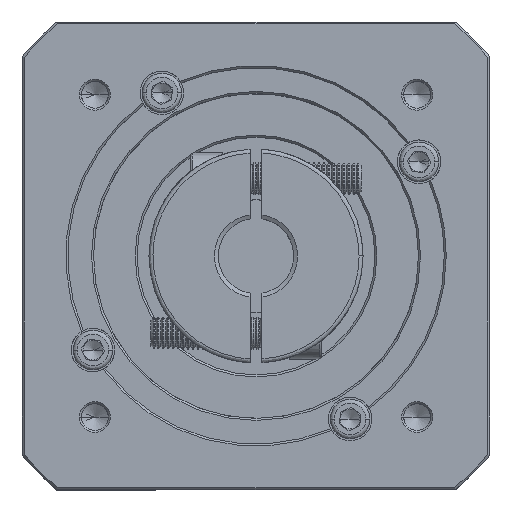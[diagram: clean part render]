
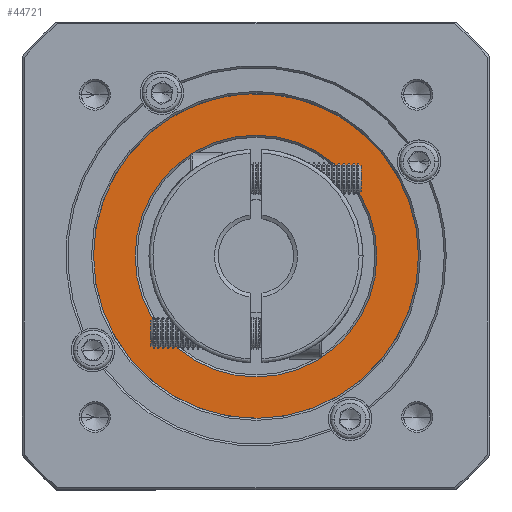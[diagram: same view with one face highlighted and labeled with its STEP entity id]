
A CAD part, top view. The second image highlights one B-rep face of the part: STEP entity #44721.
In plain terms, the highlighted planar face has unit normal (0, 0, 1).
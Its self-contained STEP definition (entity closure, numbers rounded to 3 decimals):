
#1839 = DIRECTION ( 'NONE',  ( 0., 0., 1. ) ) ;
#3198 = CARTESIAN_POINT ( 'NONE',  ( 71.236, 45.743, -26.852 ) ) ;
#4230 = DIRECTION ( 'NONE',  ( 1., 0., 0. ) ) ;
#4868 = DIRECTION ( 'NONE',  ( 0., 0., 1. ) ) ;
#7028 = ORIENTED_EDGE ( 'NONE', *, *, #118989, .T. ) ;
#11299 = CARTESIAN_POINT ( 'NONE',  ( 71.236, 45.743, -26.852 ) ) ;
#14993 = ORIENTED_EDGE ( 'NONE', *, *, #32995, .T. ) ;
#15208 = AXIS2_PLACEMENT_3D ( 'NONE', #57951, #26557, #130506 ) ;
#16820 = AXIS2_PLACEMENT_3D ( 'NONE', #75151, #96124, #4230 ) ;
#18435 = CARTESIAN_POINT ( 'NONE',  ( 110.094, 32.666, -26.852 ) ) ;
#18568 = ORIENTED_EDGE ( 'NONE', *, *, #63550, .T. ) ;
#23936 = CIRCLE ( 'NONE', #15208, 41. ) ;
#24932 = CARTESIAN_POINT ( 'NONE',  ( 112.236, 45.743, -26.852 ) ) ;
#25318 = DIRECTION ( 'NONE',  ( 1., 0., 0. ) ) ;
#26557 = DIRECTION ( 'NONE',  ( 0., 0., 1. ) ) ;
#27780 = VERTEX_POINT ( 'NONE', #122936 ) ;
#29009 = VERTEX_POINT ( 'NONE', #114930 ) ;
#30394 = VERTEX_POINT ( 'NONE', #101914 ) ;
#30676 = CIRCLE ( 'NONE', #101605, 30.5 ) ;
#30972 = VERTEX_POINT ( 'NONE', #97063 ) ;
#31591 = DIRECTION ( 'NONE',  ( 1., 0., 0. ) ) ;
#32710 = FACE_OUTER_BOUND ( 'NONE', #97288, .T. ) ;
#32995 = EDGE_CURVE ( 'NONE', #30972, #27780, #30676, .T. ) ;
#36086 = EDGE_CURVE ( 'NONE', #89377, #67526, #125937, .T. ) ;
#36490 = AXIS2_PLACEMENT_3D ( 'NONE', #90583, #100631, #99313 ) ;
#39114 = DIRECTION ( 'NONE',  ( 1., 0., 0. ) ) ;
#39814 = CIRCLE ( 'NONE', #111071, 41. ) ;
#42665 = DIRECTION ( 'NONE',  ( 0., 0., -1. ) ) ;
#43528 = ORIENTED_EDGE ( 'NONE', *, *, #46846, .T. ) ;
#43823 = ORIENTED_EDGE ( 'NONE', *, *, #36086, .T. ) ;
#44721 = ADVANCED_FACE ( 'NONE', ( #32710, #55606 ), #90350, .T. ) ;
#44957 = ORIENTED_EDGE ( 'NONE', *, *, #92230, .T. ) ;
#46846 = EDGE_CURVE ( 'NONE', #27780, #30972, #128492, .T. ) ;
#48677 = EDGE_LOOP ( 'NONE', ( #14993, #43528 ) ) ;
#50499 = DIRECTION ( 'NONE',  ( 0., 0., 1. ) ) ;
#53793 = VERTEX_POINT ( 'NONE', #116837 ) ;
#55606 = FACE_BOUND ( 'NONE', #48677, .T. ) ;
#57951 = CARTESIAN_POINT ( 'NONE',  ( 71.236, 45.743, -26.852 ) ) ;
#60376 = DIRECTION ( 'NONE',  ( 1., 0., 0. ) ) ;
#63550 = EDGE_CURVE ( 'NONE', #29009, #30394, #23936, .T. ) ;
#67526 = VERTEX_POINT ( 'NONE', #24932 ) ;
#75151 = CARTESIAN_POINT ( 'NONE',  ( 71.236, 45.743, -26.852 ) ) ;
#80309 = AXIS2_PLACEMENT_3D ( 'NONE', #90923, #50499, #39114 ) ;
#84534 = DIRECTION ( 'NONE',  ( 1., 0., 0. ) ) ;
#89377 = VERTEX_POINT ( 'NONE', #18435 ) ;
#90350 = PLANE ( 'NONE',  #90829 ) ;
#90583 = CARTESIAN_POINT ( 'NONE',  ( 71.236, 45.743, -26.852 ) ) ;
#90829 = AXIS2_PLACEMENT_3D ( 'NONE', #122076, #123841, #60376 ) ;
#90923 = CARTESIAN_POINT ( 'NONE',  ( 71.236, 45.743, -26.852 ) ) ;
#90973 = CARTESIAN_POINT ( 'NONE',  ( 39.471, 71.666, -26.852 ) ) ;
#92230 = EDGE_CURVE ( 'NONE', #130922, #53793, #101870, .T. ) ;
#93886 = DIRECTION ( 'NONE',  ( 0., 0., -1. ) ) ;
#96124 = DIRECTION ( 'NONE',  ( 0., 0., 1. ) ) ;
#97063 = CARTESIAN_POINT ( 'NONE',  ( 101.736, 45.743, -26.852 ) ) ;
#97288 = EDGE_LOOP ( 'NONE', ( #111279, #43823, #7028, #44957, #104051, #18568 ) ) ;
#99313 = DIRECTION ( 'NONE',  ( 1., 0., 0. ) ) ;
#100631 = DIRECTION ( 'NONE',  ( 0., 0., 1. ) ) ;
#101605 = AXIS2_PLACEMENT_3D ( 'NONE', #133783, #93886, #31591 ) ;
#101870 = CIRCLE ( 'NONE', #80309, 41. ) ;
#101914 = CARTESIAN_POINT ( 'NONE',  ( 103.001, 19.821, -26.852 ) ) ;
#102461 = CIRCLE ( 'NONE', #16820, 41. ) ;
#104051 = ORIENTED_EDGE ( 'NONE', *, *, #104573, .T. ) ;
#104143 = EDGE_CURVE ( 'NONE', #30394, #89377, #115533, .T. ) ;
#104573 = EDGE_CURVE ( 'NONE', #53793, #29009, #102461, .T. ) ;
#108917 = CARTESIAN_POINT ( 'NONE',  ( 71.236, 45.743, -26.852 ) ) ;
#111071 = AXIS2_PLACEMENT_3D ( 'NONE', #3198, #1839, #84534 ) ;
#111279 = ORIENTED_EDGE ( 'NONE', *, *, #104143, .T. ) ;
#114930 = CARTESIAN_POINT ( 'NONE',  ( 30.236, 45.743, -26.852 ) ) ;
#115289 = DIRECTION ( 'NONE',  ( 1., 0., 0. ) ) ;
#115533 = CIRCLE ( 'NONE', #120313, 41. ) ;
#116837 = CARTESIAN_POINT ( 'NONE',  ( 32.377, 58.821, -26.852 ) ) ;
#118989 = EDGE_CURVE ( 'NONE', #67526, #130922, #39814, .T. ) ;
#120313 = AXIS2_PLACEMENT_3D ( 'NONE', #108917, #4868, #25318 ) ;
#122076 = CARTESIAN_POINT ( 'NONE',  ( 71.236, 45.743, -26.852 ) ) ;
#122936 = CARTESIAN_POINT ( 'NONE',  ( 40.736, 45.743, -26.852 ) ) ;
#123841 = DIRECTION ( 'NONE',  ( 0., 0., 1. ) ) ;
#125937 = CIRCLE ( 'NONE', #36490, 41. ) ;
#126747 = AXIS2_PLACEMENT_3D ( 'NONE', #11299, #42665, #115289 ) ;
#128492 = CIRCLE ( 'NONE', #126747, 30.5 ) ;
#130506 = DIRECTION ( 'NONE',  ( 1., 0., 0. ) ) ;
#130922 = VERTEX_POINT ( 'NONE', #90973 ) ;
#133783 = CARTESIAN_POINT ( 'NONE',  ( 71.236, 45.743, -26.852 ) ) ;
